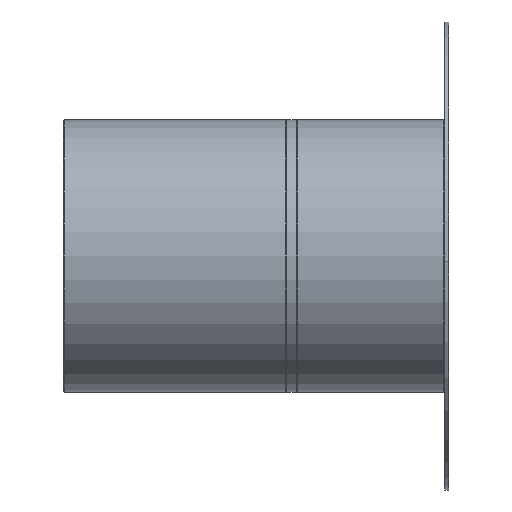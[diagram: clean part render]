
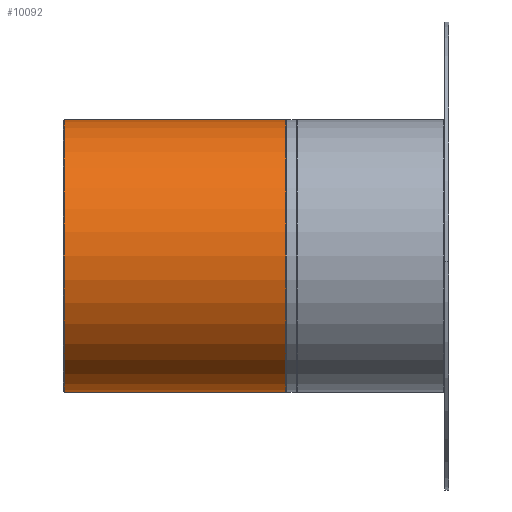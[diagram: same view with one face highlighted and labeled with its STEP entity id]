
A CAD part, left-side view. The second image highlights one B-rep face of the part: STEP entity #10092.
In plain terms, the highlighted cylindrical face has radius 34.9 mm (diameter 69.8 mm), a partial arc.
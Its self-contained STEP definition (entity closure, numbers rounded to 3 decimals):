
#108 = AXIS2_PLACEMENT_3D ( 'NONE', #4253, #13547, #6505 ) ;
#1818 = LINE ( 'NONE', #10669, #2285 ) ;
#2285 = VECTOR ( 'NONE', #4913, 1000. ) ;
#2762 = CARTESIAN_POINT ( 'NONE',  ( 0., 0.25, 34.9 ) ) ;
#2901 = ORIENTED_EDGE ( 'NONE', *, *, #6908, .T. ) ;
#3694 = VERTEX_POINT ( 'NONE', #9195 ) ;
#4253 = CARTESIAN_POINT ( 'NONE',  ( 0., 0.25, 0. ) ) ;
#4751 = DIRECTION ( 'NONE',  ( 0., 0., 1. ) ) ;
#4913 = DIRECTION ( 'NONE',  ( 0., -1., 0. ) ) ;
#5285 = LINE ( 'NONE', #9957, #7852 ) ;
#5790 = VERTEX_POINT ( 'NONE', #2762 ) ;
#5913 = CYLINDRICAL_SURFACE ( 'NONE', #12995, 34.9 ) ;
#6053 = FACE_OUTER_BOUND ( 'NONE', #13343, .T. ) ;
#6505 = DIRECTION ( 'NONE',  ( 0., 0., -1. ) ) ;
#6908 = EDGE_CURVE ( 'NONE', #8816, #8855, #10700, .T. ) ;
#7852 = VECTOR ( 'NONE', #12324, 1000. ) ;
#8144 = DIRECTION ( 'NONE',  ( 0., -1., 0. ) ) ;
#8382 = CARTESIAN_POINT ( 'NONE',  ( 0., 56.95, -34.9 ) ) ;
#8816 = VERTEX_POINT ( 'NONE', #8382 ) ;
#8855 = VERTEX_POINT ( 'NONE', #13316 ) ;
#9043 = EDGE_CURVE ( 'NONE', #8816, #3694, #5285, .T. ) ;
#9195 = CARTESIAN_POINT ( 'NONE',  ( 0., 0.25, -34.9 ) ) ;
#9392 = ORIENTED_EDGE ( 'NONE', *, *, #9043, .F. ) ;
#9532 = DIRECTION ( 'NONE',  ( 0., 0., -1. ) ) ;
#9567 = ORIENTED_EDGE ( 'NONE', *, *, #13140, .T. ) ;
#9957 = CARTESIAN_POINT ( 'NONE',  ( 0., 0., -34.9 ) ) ;
#10092 = ADVANCED_FACE ( 'NONE', ( #6053 ), #5913, .T. ) ;
#10204 = AXIS2_PLACEMENT_3D ( 'NONE', #10350, #8144, #4751 ) ;
#10350 = CARTESIAN_POINT ( 'NONE',  ( 0., 56.95, 0. ) ) ;
#10669 = CARTESIAN_POINT ( 'NONE',  ( 0., 0., 34.9 ) ) ;
#10686 = CARTESIAN_POINT ( 'NONE',  ( 0., 0., 0. ) ) ;
#10700 = CIRCLE ( 'NONE', #10204, 34.9 ) ;
#11459 = CIRCLE ( 'NONE', #108, 34.9 ) ;
#12324 = DIRECTION ( 'NONE',  ( 0., -1., 0. ) ) ;
#12392 = EDGE_CURVE ( 'NONE', #5790, #3694, #11459, .T. ) ;
#12995 = AXIS2_PLACEMENT_3D ( 'NONE', #10686, #13036, #9532 ) ;
#13036 = DIRECTION ( 'NONE',  ( 0., -1., 0. ) ) ;
#13140 = EDGE_CURVE ( 'NONE', #8855, #5790, #1818, .T. ) ;
#13316 = CARTESIAN_POINT ( 'NONE',  ( 0., 56.95, 34.9 ) ) ;
#13343 = EDGE_LOOP ( 'NONE', ( #2901, #9567, #14790, #9392 ) ) ;
#13547 = DIRECTION ( 'NONE',  ( 0., 1., 0. ) ) ;
#14790 = ORIENTED_EDGE ( 'NONE', *, *, #12392, .T. ) ;
